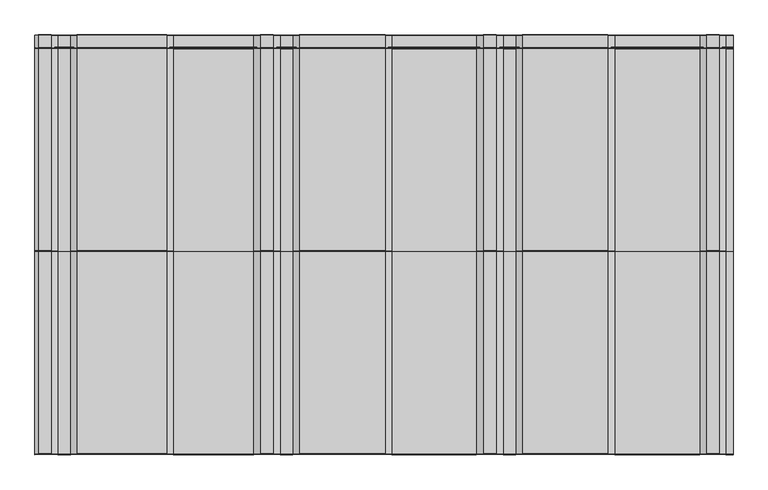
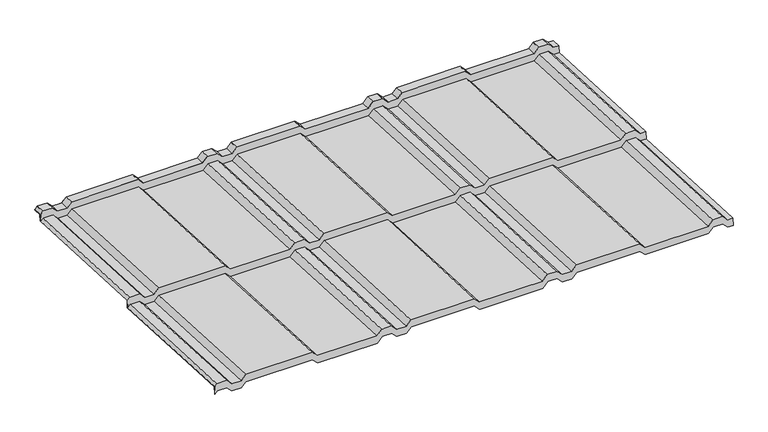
"""IFC4 building model written with IfcOpenShell, lengths in millimetres: proxy geometry, AQUAPLAST - Blachodachówka Alice na wymiar : Blachodachówka Alice."""

import ifcopenshell
import ifcopenshell.guid

model = None  # the IFC model being written
_history = None  # IfcOwnerHistory: only IFC2X3 demands one
_inside = {}  # id of a spatial element -> (the spatial element, [elements in it])
_under = {}  # id of a project, library or spatial element -> (it, [spatial elements below it])
_declared = {}  # id of a project -> (the project, [libraries it declares])
_typed = {}  # id of a type object -> (the type object, [elements of that type])
_made_of = {}  # id of a material, layer set ... -> (it, [elements and type objects made of it])


def new_model(schema):
    """Start an empty IFC model of exactly this schema.

    Asked for "IFC4X3", IfcOpenShell would pick the latest addendum, in which some entities
    have other attributes; the version numbers below select the first issue.
    IFC2X3 requires an IfcOwnerHistory on every rooted entity: one is made here for all.
    """
    global model, _history
    if schema == "IFC4X3":
        model = ifcopenshell.file(schema_version=(4, 3, 0, 0))
    else:
        model = ifcopenshell.file(schema=schema)
    _inside.clear()
    _under.clear()
    _declared.clear()
    _typed.clear()
    _made_of.clear()
    _history = None
    if model.schema == "IFC2X3":
        org = make("IfcOrganization", Name="unknown")
        user = make(
            "IfcPersonAndOrganization",
            ThePerson=make("IfcPerson", FamilyName="unknown"),
            TheOrganization=org,
        )
        app = make(
            "IfcApplication",
            ApplicationDeveloper=org,
            Version="unknown",
            ApplicationFullName="unknown",
            ApplicationIdentifier="unknown",
        )
        _history = make(
            "IfcOwnerHistory",
            OwningUser=user,
            OwningApplication=app,
            ChangeAction="ADDED",
            CreationDate=0,
        )
    return model


def make(cls, **values):
    """One entity of the class cls with the attributes given. An attribute that is None is left unset."""
    return model.create_entity(
        cls, **{name: value for name, value in values.items() if value is not None}
    )


def rooted(cls, **values):
    """An entity with a GlobalId (a new one), such as an element, a storey or a relation."""
    return make(cls, GlobalId=ifcopenshell.guid.new(), OwnerHistory=_history, **values)


def si_unit(unit_type, name, prefix=None):
    """IfcSIUnit, for example si_unit("LENGTHUNIT", "METRE", prefix="MILLI")."""
    return make("IfcSIUnit", UnitType=unit_type, Prefix=prefix, Name=name)


def assignment(units):
    """IfcUnitAssignment: the units of a project."""
    return None if units is None else make("IfcUnitAssignment", Units=units)


def point(xyz):
    """IfcCartesianPoint."""
    return None if xyz is None else make("IfcCartesianPoint", Coordinates=xyz)


def direction(xyz):
    """IfcDirection."""
    return None if xyz is None else make("IfcDirection", DirectionRatios=xyz)


def frame(location, z_axis=None, x_axis=None):
    """IfcAxis2Placement3D, a coordinate frame: its origin and axes. An axis left out is left unset."""
    return make(
        "IfcAxis2Placement3D",
        Location=point(location),
        Axis=direction(z_axis),
        RefDirection=direction(x_axis),
    )


def origin():
    """The frame at (0, 0, 0) with its axes left unset."""
    return frame((0.0, 0.0, 0.0))


def place(relative_to, where):
    """IfcLocalPlacement: puts the frame where relative to a parent placement (None: the world)."""
    return make(
        "IfcLocalPlacement", PlacementRelTo=relative_to, RelativePlacement=where
    )


def context(
    kind, dimensions, precision=None, world=None, true_north=None, identifier=None
):
    """IfcGeometricRepresentationContext, for example the 3D "Model" context."""
    return make(
        "IfcGeometricRepresentationContext",
        ContextIdentifier=identifier,
        ContextType=kind,
        CoordinateSpaceDimension=dimensions,
        Precision=precision,
        WorldCoordinateSystem=world,
        TrueNorth=true_north,
    )


def project(units=None, contexts=None):
    """IfcProject with its units and contexts."""
    return rooted(
        "IfcProject",
        Name="project",
        RepresentationContexts=contexts,
        UnitsInContext=assignment(units),
    )


def spatial(cls, under=None, at=None, **own):
    """A site, building, storey or space (cls), placed at a placement, below another one or the project."""
    s = rooted(cls, ObjectPlacement=at, **own)
    if under is not None:
        _under.setdefault(under.id(), (under, []))[1].append(s)
    return s


def faces_of(points, faces, orient=None, outer=None):
    """IfcFace entities. A face is a list of loops; a loop is a list of indices into points, from 0.

    orient and outer hold one flag for each loop. By default every Orientation is true, the
    first loop of a face is its IfcFaceOuterBound and the others are IfcFaceBound.
    """
    made = []
    for i, loops in enumerate(faces):
        bounds = []
        for j, loop in enumerate(loops):
            is_outer = j == 0 if outer is None else outer[i][j]
            bounds.append(
                make(
                    "IfcFaceOuterBound" if is_outer else "IfcFaceBound",
                    Bound=make("IfcPolyLoop", Polygon=[points[k] for k in loop]),
                    Orientation=True if orient is None else orient[i][j],
                )
            )
        made.append(make("IfcFace", Bounds=bounds))
    return made


def faceted_brep(points, faces, orient=None, outer=None, voids=None):
    """IfcFacetedBrep: a solid bounded by flat faces; with voids (closed shells), ...WithVoids."""
    shared = [point(p) for p in points]
    hull = make("IfcClosedShell", CfsFaces=faces_of(shared, faces, orient, outer))
    if voids is None:
        return make("IfcFacetedBrep", Outer=hull)
    return make(
        "IfcFacetedBrepWithVoids",
        Outer=hull,
        Voids=[
            make(cls, CfsFaces=faces_of(shared, fs, o, b)) for cls, fs, o, b in voids
        ],
    )


def shape(context_of_items, identifier, shape_type, items):
    """IfcShapeRepresentation: the items that make up one representation, for example the "Body"."""
    return make(
        "IfcShapeRepresentation",
        ContextOfItems=context_of_items,
        RepresentationIdentifier=identifier,
        RepresentationType=shape_type,
        Items=items,
    )


def source(mapping_origin, context_of_items, identifier, shape_type, items):
    """IfcRepresentationMap: a shape defined once, which mapped items show again and again."""
    return make(
        "IfcRepresentationMap",
        MappingOrigin=mapping_origin,
        MappedRepresentation=shape(context_of_items, identifier, shape_type, items),
    )


def transform(
    local_origin,
    x_axis=None,
    y_axis=None,
    z_axis=None,
    scale=None,
    scale2=None,
    scale3=None,
    uniform=True,
):
    """IfcCartesianTransformationOperator3D, or its non-uniform kind. x_axis, y_axis, z_axis: its Axis1, 2, 3."""
    if uniform:
        return make(
            "IfcCartesianTransformationOperator3D",
            Axis1=direction(x_axis),
            Axis2=direction(y_axis),
            LocalOrigin=point(local_origin),
            Scale=scale,
            Axis3=direction(z_axis),
        )
    return make(
        "IfcCartesianTransformationOperator3DnonUniform",
        Axis1=direction(x_axis),
        Axis2=direction(y_axis),
        LocalOrigin=point(local_origin),
        Scale=scale,
        Axis3=direction(z_axis),
        Scale2=scale2,
        Scale3=scale3,
    )


def mapped(mapping_source, mapping_target):
    """IfcMappedItem: shows the shape of a source again, moved by a transform."""
    return make(
        "IfcMappedItem", MappingSource=mapping_source, MappingTarget=mapping_target
    )


def made_of(thing, what):
    """Note that an element or type object is made of a material, layer set ...; save() writes the relation."""
    if what is not None:
        _made_of.setdefault(what.id(), (what, []))[1].append(thing)
    return thing


def element(
    cls,
    number,
    at=None,
    inside=None,
    cuts=None,
    type_object=None,
    material=None,
    context=None,
    identifier="Body",
    shape_type=None,
    held_by="IfcProductDefinitionShape",
    body=None,
    shapes=None,
    **own,
):
    """One element of the class cls, such as IfcWall. Its Tag is "e" and its number.

    at: its placement. inside: the storey or other place that contains it. cuts: it is an
    opening in that element (IfcRelVoidsElement). A single representation is given by context,
    identifier, shape_type and body (its items); several are given by shapes. held_by: the class
    of the entity that holds the representations. save() writes the other relations.
    """
    e = rooted(cls, Tag="e%d" % number, ObjectPlacement=at, **own)
    if body is not None:
        shapes = [shape(context, identifier, shape_type, body)]
    if shapes is not None:
        e.Representation = make(held_by, Representations=shapes)
    if inside is not None:
        _inside.setdefault(inside.id(), (inside, []))[1].append(e)
    if cuts is not None:
        rooted(
            "IfcRelVoidsElement", RelatingBuildingElement=cuts, RelatedOpeningElement=e
        )
    if type_object is not None:
        _typed.setdefault(type_object.id(), (type_object, []))[1].append(e)
    return made_of(e, material)


def aggregate(whole, parts):
    """IfcRelAggregates: a whole, such as a stair, and the parts it consists of."""
    return rooted("IfcRelAggregates", RelatingObject=whole, RelatedObjects=parts)


def save(model, path):
    """Write the relations noted so far, then the file.

    IfcRelAggregates (storeys below a building ...), IfcRelContainedInSpatialStructure (elements
    in a storey), IfcRelDefinesByType, IfcRelAssociatesMaterial and IfcRelDeclares: one each for
    every whole, place, type object, material and project.
    """
    for whole, parts in _under.values():
        aggregate(whole, parts)
    for where, things in _inside.values():
        rooted(
            "IfcRelContainedInSpatialStructure",
            RelatedElements=things,
            RelatingStructure=where,
        )
    for kind, things in _typed.values():
        rooted("IfcRelDefinesByType", RelatedObjects=things, RelatingType=kind)
    for what, things in _made_of.values():
        rooted("IfcRelAssociatesMaterial", RelatedObjects=things, RelatingMaterial=what)
    for by, libraries in _declared.values():
        rooted("IfcRelDeclares", RelatingContext=by, RelatedDefinitions=libraries)
    model.write(path)


def specialty_equipment_00c5cd35(model_context):
    return source(origin(), model_context, "Body", "Brep", [
        faceted_brep([(-566.0477972, 699.8197377, 29.0407544), (-571.7598776, 699.5357252, 23.3357391), (-571.7598776, 698.7215377, 6.9809929), (-566.0477972, 699.0055502, 12.6860082), (-543.5017928, 699.0055502, 12.6860082), (-532.0017928, 698.4337544, 1.2002323), (-510.6231132, 698.4337544, 1.2002323), (-499.6231132, 698.9806895, 12.1866267), (-345.1055852, 698.9806895, 12.1866267), (-333.6055852, 698.4088937, 0.7008507), (-195.9354926, 698.4088937, 0.7008507), (-183.9354926, 699.0055502, 12.6860082), (-161.7088996, 699.0055502, 12.6860082), (-149.7088996, 698.4088937, 0.7008507), (-128.1231132, 698.4088937, 0.7008507), (-116.6231132, 698.9806895, 12.1866267), (30.5086777, 698.9806895, 12.1866267), (42.0086777, 698.4088937, 0.7008507), (187.5101579, 698.4088937, 0.7008507), (199.5101579, 699.0055502, 12.6860082), (221.7367509, 699.0055502, 12.6860082), (233.7367509, 698.4088937, 0.7008507), (255.3225373, 698.4088937, 0.7008507), (266.8225373, 698.9806895, 12.1866267), (413.9543281, 698.9806895, 12.1866267), (425.4543281, 698.4088937, 0.7008507), (571.6593096, 698.4088937, 0.7008507), (583.1593096, 698.9806895, 12.1866267), (605.2911004, 698.9806895, 12.1866267), (616.7911004, 698.4088937, 0.7008507), (629.2401224, 698.4088937, 0.7008507), (629.2401224, 699.2230812, 17.0555969), (616.7911004, 699.2230812, 17.0555969), (605.2911004, 699.794877, 28.5413729), (583.1593096, 699.794877, 28.5413729), (571.6593096, 699.2230812, 17.0555969), (425.4543281, 699.2230812, 17.0555969), (413.9543281, 699.794877, 28.5413729), (266.8225373, 699.794877, 28.5413729), (255.3225373, 699.2230812, 17.0555969), (233.7367509, 699.2230812, 17.0555969), (221.7367509, 699.8197377, 29.0407544), (199.5101579, 699.8197377, 29.0407544), (187.5101579, 699.2230812, 17.0555969), (42.0086777, 699.2230812, 17.0555969), (30.5086777, 699.794877, 28.5413729), (-116.6231132, 699.794877, 28.5413729), (-128.1231132, 699.2230812, 17.0555969), (-149.7088996, 699.2230812, 17.0555969), (-161.7088996, 699.8197377, 29.0407544), (-183.9354926, 699.8197377, 29.0407544), (-195.9354926, 699.2230812, 17.0555969), (-333.6055852, 699.2230812, 17.0555969), (-345.1055852, 699.794877, 28.5413729), (-499.6231132, 699.794877, 28.5413729), (-510.6231132, 699.2479419, 17.5549785), (-532.0017928, 699.2479419, 17.5549785), (-543.5017928, 699.8197377, 29.0407544), (-510.4160064, 720.1971069, 16.0114481), (-532.2088996, 720.1971069, 16.0114481), (-543.7088996, 720.7689027, 27.497224), (-565.8406904, 720.7689027, 27.497224), (-571.7598776, 720.4745926, 21.5853581), (-571.7598776, 720.5097509, 22.2915903), (-566.0477972, 720.7937634, 27.9966056), (-543.5017928, 720.7937634, 27.9966056), (-532.0017928, 720.2219676, 16.5108296), (-510.6231132, 720.2219676, 16.5108296), (-499.6231132, 720.7689027, 27.497224), (-345.1055852, 720.7689027, 27.497224), (-333.6055852, 720.1971069, 16.0114481), (-195.9354926, 720.1971069, 16.0114481), (-183.9354926, 720.7937634, 27.9966056), (-161.7088996, 720.7937634, 27.9966056), (-149.7088996, 720.1971069, 16.0114481), (-128.1231132, 720.1971069, 16.0114481), (-116.6231132, 720.7689027, 27.497224), (30.5086777, 720.7689027, 27.497224), (42.0086777, 720.1971069, 16.0114481), (187.5101579, 720.1971069, 16.0114481), (199.5101579, 720.7937634, 27.9966056), (221.7367509, 720.7937634, 27.9966056), (233.7367509, 720.1971069, 16.0114481), (255.3225373, 720.1971069, 16.0114481), (266.8225373, 720.7689027, 27.497224), (413.9543281, 720.7689027, 27.497224), (425.4543281, 720.1971069, 16.0114481), (571.6593096, 720.1971069, 16.0114481), (583.1593096, 720.7689027, 27.497224), (605.2911004, 720.7689027, 27.497224), (616.7911004, 720.1971069, 16.0114481), (629.2401224, 720.1971069, 16.0114481), (629.2401224, 720.1722462, 15.5120665), (616.5839936, 720.1722462, 15.5120665), (605.0839936, 720.744042, 26.9978425), (583.3664164, 720.744042, 26.9978425), (571.8664164, 720.1722462, 15.5120665), (425.2472214, 720.1722462, 15.5120665), (413.7472214, 720.744042, 26.9978425), (267.0296441, 720.744042, 26.9978425), (255.5296441, 720.1722462, 15.5120665), (233.5296441, 720.1722462, 15.5120665), (221.5296441, 720.7689027, 27.497224), (199.7172647, 720.7689027, 27.497224), (187.7172647, 720.1722462, 15.5120665), (41.8015709, 720.1722462, 15.5120665), (30.3015709, 720.744042, 26.9978425), (-116.4160064, 720.744042, 26.9978425), (-127.9160064, 720.1722462, 15.5120665), (-149.9160064, 720.1722462, 15.5120665), (-161.9160064, 720.7689027, 27.497224), (-183.7283858, 720.7689027, 27.497224), (-195.7283858, 720.1722462, 15.5120665), (-333.8126919, 720.1722462, 15.5120665), (-345.3126919, 720.744042, 26.9978425), (-499.4160064, 720.744042, 26.9978425), (-510.4160064, 700.2218443, 17.0058755), (-532.2088996, 700.2218443, 17.0058755), (-543.7088996, 700.7936401, 28.4916515), (-565.8406904, 700.7936401, 28.4916515), (-571.7598776, 700.49933, 22.5797856), (-566.0477972, 700.8185008, 28.9910331), (-543.5017928, 700.8185008, 28.9910331), (-532.0017928, 700.246705, 17.5052571), (-510.6231132, 700.246705, 17.5052571), (-499.6231132, 700.7936401, 28.4916515), (-345.1055852, 700.7936401, 28.4916515), (-333.6055852, 700.2218443, 17.0058755), (-195.9354926, 700.2218443, 17.0058755), (-183.9354926, 700.8185008, 28.9910331), (-161.7088996, 700.8185008, 28.9910331), (-149.7088996, 700.2218443, 17.0058755), (-128.1231132, 700.2218443, 17.0058755), (-116.6231132, 700.7936401, 28.4916515), (30.5086777, 700.7936401, 28.4916515), (42.0086777, 700.2218443, 17.0058755), (187.5101579, 700.2218443, 17.0058755), (199.5101579, 700.8185008, 28.9910331), (221.7367509, 700.8185008, 28.9910331), (233.7367509, 700.2218443, 17.0058755), (255.3225373, 700.2218443, 17.0058755), (266.8225373, 700.7936401, 28.4916515), (413.9543281, 700.7936401, 28.4916515), (425.4543281, 700.2218443, 17.0058755), (571.6593096, 700.2218443, 17.0058755), (583.1593096, 700.7936401, 28.4916515), (605.2911004, 700.7936401, 28.4916515), (616.7911004, 700.2218443, 17.0058755), (629.2401224, 700.1969837, 16.506494), (616.5839936, 700.1969837, 16.506494), (605.0839936, 700.7687795, 27.9922699), (583.3664164, 700.7687795, 27.9922699), (571.8664164, 700.1969837, 16.506494), (425.2472214, 700.1969837, 16.506494), (413.7472214, 700.7687795, 27.9922699), (267.0296441, 700.7687795, 27.9922699), (255.5296441, 700.1969837, 16.506494), (233.5296441, 700.1969837, 16.506494), (221.5296441, 700.7936401, 28.4916515), (199.7172647, 700.7936401, 28.4916515), (187.7172647, 700.1969837, 16.506494), (41.8015709, 700.1969837, 16.506494), (30.3015709, 700.7687795, 27.9922699), (-116.4160064, 700.7687795, 27.9922699), (-127.9160064, 700.1969837, 16.506494), (-149.9160064, 700.1969837, 16.506494), (-161.9160064, 700.7936401, 28.4916515), (-183.7283858, 700.7936401, 28.4916515), (-195.7283858, 700.1969837, 16.506494), (-333.8126919, 700.1969837, 16.506494), (-345.3126919, 700.7687795, 27.9922699), (-499.4160064, 700.7687795, 27.9922699), (-566.0477972, 0.0, 29.9628938), (-571.7598776, -0.2840125, 24.2578785), (-571.7598776, -1.1495178, 6.8723021), (-565.8406904, -0.8552076, 12.784168), (-543.7088996, -0.8552076, 12.784168), (-532.2088996, -1.4270034, 1.2983921), (-510.4160064, -1.4270034, 1.2983921), (-499.4160064, -0.8800683, 12.2847865), (-345.3126919, -0.8800683, 12.2847865), (-333.8126919, -1.4518641, 0.7990105), (-195.7283858, -1.4518641, 0.7990105), (-183.7283858, -0.8552076, 12.784168), (-161.9160064, -0.8552076, 12.784168), (-149.9160064, -1.4518641, 0.7990105), (-127.9160064, -1.4518641, 0.7990105), (-116.4160064, -0.8800683, 12.2847865), (30.3015709, -0.8800683, 12.2847865), (41.8015709, -1.4518641, 0.7990105), (187.7172647, -1.4518641, 0.7990105), (199.7172647, -0.8552076, 12.784168), (221.5296441, -0.8552076, 12.784168), (233.5296441, -1.4518641, 0.7990105), (255.5296441, -1.4518641, 0.7990105), (267.0296441, -0.8800683, 12.2847865), (413.7472214, -0.8800683, 12.2847865), (425.2472214, -1.4518641, 0.7990105), (571.8664164, -1.4518641, 0.7990105), (583.3664164, -0.8800683, 12.2847865), (605.0839936, -0.8800683, 12.2847865), (616.5839936, -1.4518641, 0.7990105), (629.2401224, -1.4518641, 0.7990105), (629.2401224, -0.5966565, 17.9777363), (616.7911004, -0.5966565, 17.9777363), (605.2911004, -0.0248607, 29.4635123), (583.1593096, -0.0248607, 29.4635123), (571.6593096, -0.5966565, 17.9777363), (425.4543281, -0.5966565, 17.9777363), (413.9543281, -0.0248607, 29.4635123), (266.8225373, -0.0248607, 29.4635123), (255.3225373, -0.5966565, 17.9777363), (233.7367509, -0.5966565, 17.9777363), (221.7367509, 0.0, 29.9628938), (199.5101579, 0.0, 29.9628938), (187.5101579, -0.5966565, 17.9777363), (42.0086777, -0.5966565, 17.9777363), (30.5086777, -0.0248607, 29.4635123), (-116.6231132, -0.0248607, 29.4635123), (-128.1231132, -0.5966565, 17.9777363), (-149.7088996, -0.5966565, 17.9777363), (-161.7088996, 0.0, 29.9628938), (-183.9354926, 0.0, 29.9628938), (-195.9354926, -0.5966565, 17.9777363), (-333.6055852, -0.5966565, 17.9777363), (-345.1055852, -0.0248607, 29.4635123), (-499.6231132, -0.0248607, 29.4635123), (-510.6231132, -0.5717958, 18.4771179), (-532.0017928, -0.5717958, 18.4771179), (-543.5017928, 0.0, 29.9628938), (-510.4160064, 348.9704382, 0.5752554), (-532.2088996, 348.9704382, 0.5752554), (-543.7088996, 349.542234, 12.0610314), (-565.8406904, 349.542234, 12.0610314), (-571.7598776, 349.2479238, 6.1491655), (-571.7598776, 350.1180479, 23.6275202), (-565.8406904, 350.412358, 29.5393861), (-543.7088996, 350.412358, 29.5393861), (-532.2088996, 349.8405622, 18.0536102), (-510.4160064, 349.8405622, 18.0536102), (-499.4160064, 350.3874973, 29.0400046), (-345.3126919, 350.3874973, 29.0400046), (-333.8126919, 349.8157015, 17.5542286), (-195.7283858, 349.8157015, 17.5542286), (-183.7283858, 350.412358, 29.5393861), (-161.9160064, 350.412358, 29.5393861), (-149.9160064, 349.8157015, 17.5542286), (-127.9160064, 349.8157015, 17.5542286), (-116.4160064, 350.3874973, 29.0400046), (30.3015709, 350.3874973, 29.0400046), (41.8015709, 349.8157015, 17.5542286), (187.7172647, 349.8157015, 17.5542286), (199.7172647, 350.412358, 29.5393861), (221.5296441, 350.412358, 29.5393861), (233.5296441, 349.8157015, 17.5542286), (255.5296441, 349.8157015, 17.5542286), (267.0296441, 350.3874973, 29.0400046), (413.7472214, 350.3874973, 29.0400046), (425.2472214, 349.8157015, 17.5542286), (571.8664164, 349.8157015, 17.5542286), (583.3664164, 350.3874973, 29.0400046), (605.0839936, 350.3874973, 29.0400046), (616.5839936, 349.8157015, 17.5542286), (629.2401224, 349.8157015, 17.5542286), (629.2401224, 348.9455775, 0.0758739), (616.5839936, 348.9455775, 0.0758739), (605.0839936, 349.5173733, 11.5616498), (583.3664164, 349.5173733, 11.5616498), (571.8664164, 348.9455775, 0.0758739), (425.2472214, 348.9455775, 0.0758739), (413.7472214, 349.5173733, 11.5616498), (267.0296441, 349.5173733, 11.5616498), (255.5296441, 348.9455775, 0.0758739), (233.5296441, 348.9455775, 0.0758739), (221.5296441, 349.542234, 12.0610314), (199.7172647, 349.542234, 12.0610314), (187.7172647, 348.9455775, 0.0758739), (41.8015709, 348.9455775, 0.0758739), (30.3015709, 349.5173733, 11.5616498), (-116.4160064, 349.5173733, 11.5616498), (-127.9160064, 348.9455775, 0.0758739), (-149.9160064, 348.9455775, 0.0758739), (-161.9160064, 349.542234, 12.0610314), (-183.7283858, 349.542234, 12.0610314), (-195.7283858, 348.9455775, 0.0758739), (-333.8126919, 348.9455775, 0.0758739), (-345.3126919, 349.5173733, 11.5616498), (-499.4160064, 349.5173733, 11.5616498), (-510.6231132, 347.9965357, 1.1243584), (-532.0017928, 347.9965357, 1.1243584), (-499.6231132, 348.5434708, 12.1107528), (-345.1055852, 348.5434708, 12.1107528), (-333.6055852, 347.971675, 0.6249768), (-195.9354926, 347.971675, 0.6249768), (-183.9354926, 348.5683315, 12.6101343), (-161.7088996, 348.5683315, 12.6101343), (-149.7088996, 347.971675, 0.6249768), (-128.1231132, 347.971675, 0.6249768), (-116.6231132, 348.5434708, 12.1107528), (30.5086777, 348.5434708, 12.1107528), (42.0086777, 347.971675, 0.6249768), (187.5101579, 347.971675, 0.6249768), (199.5101579, 348.5683315, 12.6101343), (221.7367509, 348.5683315, 12.6101343), (233.7367509, 347.971675, 0.6249768), (255.3225373, 347.971675, 0.6249768), (266.8225373, 348.5434708, 12.1107528), (413.9543281, 348.5434708, 12.1107528), (425.4543281, 347.971675, 0.6249768), (571.6593096, 347.971675, 0.6249768), (583.1593096, 348.5434708, 12.1107528), (605.2911004, 348.5434708, 12.1107528), (616.7911004, 347.971675, 0.6249768), (629.2401224, 347.971675, 0.6249768), (629.2401224, 0.377246, 17.4286334), (616.5839936, 0.377246, 17.4286334), (616.5839936, 347.9468143, 0.1255953), (605.0839936, 0.9490418, 28.9144093), (605.0839936, 348.5186101, 11.6113712), (583.3664164, 0.9490418, 28.9144093), (583.3664164, 348.5186101, 11.6113712), (571.8664164, 0.377246, 17.4286334), (571.8664164, 347.9468143, 0.1255953), (425.2472214, 0.377246, 17.4286334), (425.2472214, 347.9468143, 0.1255953), (413.7472214, 0.9490418, 28.9144093), (413.7472214, 348.5186101, 11.6113712), (267.0296441, 0.9490418, 28.9144093), (267.0296441, 348.5186101, 11.6113712), (255.5296441, 0.377246, 17.4286334), (255.5296441, 347.9468143, 0.1255953), (233.5296441, 0.377246, 17.4286334), (233.5296441, 347.9468143, 0.1255953), (221.5296441, 0.9739024, 29.4137909), (221.5296441, 348.5434708, 12.1107528), (199.7172647, 0.9739024, 29.4137909), (199.7172647, 348.5434708, 12.1107528), (187.7172647, 0.377246, 17.4286334), (187.7172647, 347.9468143, 0.1255953), (41.8015709, 0.377246, 17.4286334), (41.8015709, 347.9468143, 0.1255953), (30.3015709, 0.9490418, 28.9144093), (30.3015709, 348.5186101, 11.6113712), (-116.4160064, 0.9490418, 28.9144093), (-116.4160064, 348.5186101, 11.6113712), (-127.9160064, 0.377246, 17.4286334), (-127.9160064, 347.9468143, 0.1255953), (-149.9160064, 0.377246, 17.4286334), (-149.9160064, 347.9468143, 0.1255953), (-161.9160064, 0.9739024, 29.4137909), (-161.9160064, 348.5434708, 12.1107528), (-183.7283858, 0.9739024, 29.4137909), (-183.7283858, 348.5434708, 12.1107528), (-195.7283858, 0.377246, 17.4286334), (-195.7283858, 347.9468143, 0.1255953), (-333.8126919, 0.377246, 17.4286334), (-333.8126919, 347.9468143, 0.1255953), (-345.3126919, 0.9490418, 28.9144093), (-345.3126919, 348.5186101, 11.6113712), (-499.4160064, 0.9490418, 28.9144093), (-499.4160064, 348.5186101, 11.6113712), (-510.4160064, 0.4021066, 17.9280149), (-510.4160064, 347.971675, 0.6249768), (-532.2088996, 0.4021066, 17.9280149), (-532.2088996, 347.971675, 0.6249768), (-543.7088996, 0.9739024, 29.4137909), (-543.7088996, 348.5434708, 12.1107528), (-565.8406904, 0.9739024, 29.4137909), (-565.8406904, 348.5434708, 12.1107528), (-571.7598776, 0.6795923, 23.501925), (-566.0477972, 348.5683315, 12.6101343), (-571.7598776, 348.284319, 6.905119), (-543.5017928, 348.5683315, 12.6101343), (-566.0477972, 349.4384556, 30.0884891), (-571.7598776, 349.1544431, 24.3834738), (629.2401224, 348.8417991, 18.1033315), (616.7911004, 348.8417991, 18.1033315), (605.2911004, 349.4135949, 29.5891075), (583.1593096, 349.4135949, 29.5891075), (571.6593096, 348.8417991, 18.1033315), (425.4543281, 348.8417991, 18.1033315), (413.9543281, 349.4135949, 29.5891075), (266.8225373, 349.4135949, 29.5891075), (255.3225373, 348.8417991, 18.1033315), (233.7367509, 348.8417991, 18.1033315), (221.7367509, 349.4384556, 30.0884891), (199.5101579, 349.4384556, 30.0884891), (187.5101579, 348.8417991, 18.1033315), (42.0086777, 348.8417991, 18.1033315), (30.5086777, 349.4135949, 29.5891075), (-116.6231132, 349.4135949, 29.5891075), (-128.1231132, 348.8417991, 18.1033315), (-149.7088996, 348.8417991, 18.1033315), (-161.7088996, 349.4384556, 30.0884891), (-183.9354926, 349.4384556, 30.0884891), (-195.9354926, 348.8417991, 18.1033315), (-333.6055852, 348.8417991, 18.1033315), (-345.1055852, 349.4135949, 29.5891075), (-499.6231132, 349.4135949, 29.5891075), (-510.6231132, 348.8666598, 18.6027131), (-532.0017928, 348.8666598, 18.6027131), (-543.5017928, 349.4384556, 30.0884891), (629.2401224, 699.3827962, 0.1517478), (616.5839936, 699.3827962, 0.1517478), (605.0839936, 699.954592, 11.6375237), (583.3664164, 699.954592, 11.6375237), (571.8664164, 699.3827962, 0.1517478), (425.2472214, 699.3827962, 0.1517478), (413.7472214, 699.954592, 11.6375237), (267.0296441, 699.954592, 11.6375237), (255.5296441, 699.3827962, 0.1517478), (233.5296441, 699.3827962, 0.1517478), (221.5296441, 699.9794527, 12.1369053), (199.7172647, 699.9794527, 12.1369053), (187.7172647, 699.3827962, 0.1517478), (41.8015709, 699.3827962, 0.1517478), (30.3015709, 699.954592, 11.6375237), (-116.4160064, 699.954592, 11.6375237), (-127.9160064, 699.3827962, 0.1517478), (-149.9160064, 699.3827962, 0.1517478), (-161.9160064, 699.9794527, 12.1369053), (-183.7283858, 699.9794527, 12.1369053), (-195.7283858, 699.3827962, 0.1517478), (-333.8126919, 699.3827962, 0.1517478), (-345.3126919, 699.954592, 11.6375237), (-499.4160064, 699.954592, 11.6375237), (-510.4160064, 699.4076569, 0.6511293), (-532.2088996, 699.4076569, 0.6511293), (-543.7088996, 699.9794527, 12.1369053), (-565.8406904, 699.9794527, 12.1369053), (-571.7598776, 699.6851425, 6.2250394), (-571.7598776, -0.1507546, 6.8225807), (629.2401224, -0.453101, 0.7492891), (616.5839936, -0.453101, 0.7492891), (605.0839936, 0.1186948, 12.2350651), (583.3664164, 0.1186948, 12.2350651), (571.8664164, -0.453101, 0.7492891), (425.2472214, -0.453101, 0.7492891), (413.7472214, 0.1186948, 12.2350651), (267.0296441, 0.1186948, 12.2350651), (255.5296441, -0.453101, 0.7492891), (233.5296441, -0.453101, 0.7492891), (221.5296441, 0.1435555, 12.7344467), (199.7172647, 0.1435555, 12.7344467), (187.7172647, -0.453101, 0.7492891), (41.8015709, -0.453101, 0.7492891), (30.3015709, 0.1186948, 12.2350651), (-116.4160064, 0.1186948, 12.2350651), (-127.9160064, -0.453101, 0.7492891), (-149.9160064, -0.453101, 0.7492891), (-161.9160064, 0.1435555, 12.7344467), (-183.7283858, 0.1435555, 12.7344467), (-195.7283858, -0.453101, 0.7492891), (-333.8126919, -0.453101, 0.7492891), (-345.3126919, 0.1186948, 12.2350651), (-499.4160064, 0.1186948, 12.2350651), (-510.4160064, -0.4282403, 1.2486707), (-532.2088996, -0.4282403, 1.2486707), (-543.7088996, 0.1435555, 12.7344467), (-565.8406904, 0.1435555, 12.7344467)], [[[0, 1, 2, 3, 4, 5, 6, 7, 8, 9, 10, 11, 12, 13, 14, 15, 16, 17, 18, 19, 20, 21, 22, 23, 24, 25, 26, 27, 28, 29, 30, 31, 32, 33, 34, 35, 36, 37, 38, 39, 40, 41, 42, 43, 44, 45, 46, 47, 48, 49, 50, 51, 52, 53, 54, 55, 56, 57]], [[58, 59, 60, 61, 62, 63, 64, 65, 66, 67, 68, 69, 70, 71, 72, 73, 74, 75, 76, 77, 78, 79, 80, 81, 82, 83, 84, 85, 86, 87, 88, 89, 90, 91, 92, 93, 94, 95, 96, 97, 98, 99, 100, 101, 102, 103, 104, 105, 106, 107, 108, 109, 110, 111, 112, 113, 114, 115]], [[58, 116, 117, 59]], [[59, 117, 118, 60]], [[60, 118, 119, 61]], [[119, 120, 62, 61]], [[64, 63, 1, 0, 121]], [[57, 122, 65, 64, 121, 0]], [[56, 123, 66, 65, 122, 57]], [[55, 124, 67, 66, 123, 56]], [[54, 125, 68, 67, 124, 55]], [[53, 126, 69, 68, 125, 54]], [[52, 127, 70, 69, 126, 53]], [[51, 128, 71, 70, 127, 52]], [[50, 129, 72, 71, 128, 51]], [[49, 130, 73, 72, 129, 50]], [[48, 131, 74, 73, 130, 49]], [[47, 132, 75, 74, 131, 48]], [[46, 133, 76, 75, 132, 47]], [[45, 134, 77, 76, 133, 46]], [[44, 135, 78, 77, 134, 45]], [[43, 136, 79, 78, 135, 44]], [[42, 137, 80, 79, 136, 43]], [[41, 138, 81, 80, 137, 42]], [[40, 139, 82, 81, 138, 41]], [[39, 140, 83, 82, 139, 40]], [[38, 141, 84, 83, 140, 39]], [[37, 142, 85, 84, 141, 38]], [[36, 143, 86, 85, 142, 37]], [[35, 144, 87, 86, 143, 36]], [[34, 145, 88, 87, 144, 35]], [[33, 146, 89, 88, 145, 34]], [[32, 147, 90, 89, 146, 33]], [[147, 32, 31, 91, 90]], [[92, 148, 149, 93]], [[93, 149, 150, 94]], [[94, 150, 151, 95]], [[95, 151, 152, 96]], [[96, 152, 153, 97]], [[97, 153, 154, 98]], [[98, 154, 155, 99]], [[99, 155, 156, 100]], [[100, 156, 157, 101]], [[101, 157, 158, 102]], [[102, 158, 159, 103]], [[103, 159, 160, 104]], [[104, 160, 161, 105]], [[105, 161, 162, 106]], [[106, 162, 163, 107]], [[107, 163, 164, 108]], [[108, 164, 165, 109]], [[109, 165, 166, 110]], [[110, 166, 167, 111]], [[111, 167, 168, 112]], [[112, 168, 169, 113]], [[113, 169, 170, 114]], [[114, 170, 171, 115]], [[115, 171, 116, 58]], [[172, 173, 174, 175, 176, 177, 178, 179, 180, 181, 182, 183, 184, 185, 186, 187, 188, 189, 190, 191, 192, 193, 194, 195, 196, 197, 198, 199, 200, 201, 202, 203, 204, 205, 206, 207, 208, 209, 210, 211, 212, 213, 214, 215, 216, 217, 218, 219, 220, 221, 222, 223, 224, 225, 226, 227, 228, 229]], [[230, 231, 232, 233, 234, 235, 236, 237, 238, 239, 240, 241, 242, 243, 244, 245, 246, 247, 248, 249, 250, 251, 252, 253, 254, 255, 256, 257, 258, 259, 260, 261, 262, 263, 264, 265, 266, 267, 268, 269, 270, 271, 272, 273, 274, 275, 276, 277, 278, 279, 280, 281, 282, 283, 284, 285, 286, 287]], [[227, 288, 289, 228]], [[226, 290, 288, 227]], [[225, 291, 290, 226]], [[224, 292, 291, 225]], [[223, 293, 292, 224]], [[222, 294, 293, 223]], [[221, 295, 294, 222]], [[220, 296, 295, 221]], [[219, 297, 296, 220]], [[218, 298, 297, 219]], [[217, 299, 298, 218]], [[216, 300, 299, 217]], [[215, 301, 300, 216]], [[214, 302, 301, 215]], [[213, 303, 302, 214]], [[212, 304, 303, 213]], [[211, 305, 304, 212]], [[210, 306, 305, 211]], [[209, 307, 306, 210]], [[208, 308, 307, 209]], [[207, 309, 308, 208]], [[206, 310, 309, 207]], [[205, 311, 310, 206]], [[204, 312, 311, 205]], [[204, 203, 313, 312]], [[264, 314, 315, 316, 265]], [[265, 316, 315, 317, 318, 266]], [[266, 318, 317, 319, 320, 267]], [[267, 320, 319, 321, 322, 268]], [[268, 322, 321, 323, 324, 269]], [[269, 324, 323, 325, 326, 270]], [[270, 326, 325, 327, 328, 271]], [[271, 328, 327, 329, 330, 272]], [[272, 330, 329, 331, 332, 273]], [[273, 332, 331, 333, 334, 274]], [[274, 334, 333, 335, 336, 275]], [[275, 336, 335, 337, 338, 276]], [[276, 338, 337, 339, 340, 277]], [[277, 340, 339, 341, 342, 278]], [[278, 342, 341, 343, 344, 279]], [[279, 344, 343, 345, 346, 280]], [[280, 346, 345, 347, 348, 281]], [[281, 348, 347, 349, 350, 282]], [[282, 350, 349, 351, 352, 283]], [[283, 352, 351, 353, 354, 284]], [[284, 354, 353, 355, 356, 285]], [[285, 356, 355, 357, 358, 286]], [[286, 358, 357, 359, 360, 287]], [[287, 360, 359, 361, 362, 230]], [[230, 362, 361, 363, 364, 231]], [[231, 364, 363, 365, 366, 232]], [[232, 366, 365, 367, 368, 233]], [[368, 367, 369, 234, 233]], [[370, 371, 173, 172]], [[229, 372, 370, 172]], [[228, 289, 372, 229]], [[373, 374, 371, 370, 372, 289, 288, 290, 291, 292, 293, 294, 295, 296, 297, 298, 299, 300, 301, 302, 303, 304, 305, 306, 307, 308, 309, 310, 311, 312, 313, 375, 376, 377, 378, 379, 380, 381, 382, 383, 384, 385, 386, 387, 388, 389, 390, 391, 392, 393, 394, 395, 396, 397, 398, 399, 400, 401]], [[399, 6, 5, 400]], [[398, 7, 6, 399]], [[397, 8, 7, 398]], [[396, 9, 8, 397]], [[395, 10, 9, 396]], [[394, 11, 10, 395]], [[393, 12, 11, 394]], [[392, 13, 12, 393]], [[391, 14, 13, 392]], [[390, 15, 14, 391]], [[389, 16, 15, 390]], [[388, 17, 16, 389]], [[387, 18, 17, 388]], [[386, 19, 18, 387]], [[385, 20, 19, 386]], [[384, 21, 20, 385]], [[383, 22, 21, 384]], [[382, 23, 22, 383]], [[381, 24, 23, 382]], [[380, 25, 24, 381]], [[379, 26, 25, 380]], [[378, 27, 26, 379]], [[377, 28, 27, 378]], [[376, 29, 28, 377]], [[376, 375, 30, 29]], [[402, 263, 262, 403]], [[403, 262, 261, 404]], [[404, 261, 260, 405]], [[405, 260, 259, 406]], [[406, 259, 258, 407]], [[407, 258, 257, 408]], [[408, 257, 256, 409]], [[409, 256, 255, 410]], [[410, 255, 254, 411]], [[411, 254, 253, 412]], [[412, 253, 252, 413]], [[413, 252, 251, 414]], [[414, 251, 250, 415]], [[415, 250, 249, 416]], [[416, 249, 248, 417]], [[417, 248, 247, 418]], [[418, 247, 246, 419]], [[419, 246, 245, 420]], [[420, 245, 244, 421]], [[421, 244, 243, 422]], [[422, 243, 242, 423]], [[423, 242, 241, 424]], [[424, 241, 240, 425]], [[425, 240, 239, 426]], [[426, 239, 238, 427]], [[427, 238, 237, 428]], [[428, 237, 236, 429]], [[429, 236, 235, 430]], [[3, 2, 374, 373]], [[401, 4, 3, 373]], [[400, 5, 4, 401]], [[430, 120, 119, 118, 117, 116, 171, 170, 169, 168, 167, 166, 165, 164, 163, 162, 161, 160, 159, 158, 157, 156, 155, 154, 153, 152, 151, 150, 149, 148, 402, 403, 404, 405, 406, 407, 408, 409, 410, 411, 412, 413, 414, 415, 416, 417, 418, 419, 420, 421, 422, 423, 424, 425, 426, 427, 428, 429]], [[174, 173, 371, 374, 2, 1, 63, 62, 120, 430, 235, 234, 369, 431]], [[148, 92, 91, 31, 30, 375, 313, 203, 202, 432, 314, 264, 263, 402]], [[369, 367, 365, 363, 361, 359, 357, 355, 353, 351, 349, 347, 345, 343, 341, 339, 337, 335, 333, 331, 329, 327, 325, 323, 321, 319, 317, 315, 314, 432, 433, 434, 435, 436, 437, 438, 439, 440, 441, 442, 443, 444, 445, 446, 447, 448, 449, 450, 451, 452, 453, 454, 455, 456, 457, 458, 459, 431]], [[201, 433, 432, 202]], [[200, 434, 433, 201]], [[199, 435, 434, 200]], [[198, 436, 435, 199]], [[197, 437, 436, 198]], [[196, 438, 437, 197]], [[195, 439, 438, 196]], [[194, 440, 439, 195]], [[193, 441, 440, 194]], [[192, 442, 441, 193]], [[191, 443, 442, 192]], [[190, 444, 443, 191]], [[189, 445, 444, 190]], [[188, 446, 445, 189]], [[187, 447, 446, 188]], [[186, 448, 447, 187]], [[185, 449, 448, 186]], [[184, 450, 449, 185]], [[183, 451, 450, 184]], [[182, 452, 451, 183]], [[181, 453, 452, 182]], [[180, 454, 453, 181]], [[179, 455, 454, 180]], [[178, 456, 455, 179]], [[177, 457, 456, 178]], [[176, 458, 457, 177]], [[175, 459, 458, 176]], [[174, 431, 459, 175]]]),
        faceted_brep([(-566.0477972, 698.4, 29.9628938), (-571.7598776, 698.1159875, 24.2578785), (-571.7598776, 697.2504822, 6.8723021), (-565.8406904, 697.5447924, 12.784168), (-543.7088996, 697.5447924, 12.784168), (-532.2088996, 696.9729966, 1.2983921), (-510.4160064, 696.9729966, 1.2983921), (-499.4160064, 697.5199317, 12.2847865), (-345.3126919, 697.5199317, 12.2847865), (-333.8126919, 696.9481359, 0.7990105), (-195.7283858, 696.9481359, 0.7990105), (-183.7283858, 697.5447924, 12.784168), (-161.9160064, 697.5447924, 12.784168), (-149.9160064, 696.9481359, 0.7990105), (-127.9160064, 696.9481359, 0.7990105), (-116.4160064, 697.5199317, 12.2847865), (30.3015709, 697.5199317, 12.2847865), (41.8015709, 696.9481359, 0.7990105), (187.7172647, 696.9481359, 0.7990105), (199.7172647, 697.5447924, 12.784168), (221.5296441, 697.5447924, 12.784168), (233.5296441, 696.9481359, 0.7990105), (255.5296441, 696.9481359, 0.7990105), (267.0296441, 697.5199317, 12.2847865), (413.7472214, 697.5199317, 12.2847865), (425.2472214, 696.9481359, 0.7990105), (571.8664164, 696.9481359, 0.7990105), (583.3664164, 697.5199317, 12.2847865), (605.0839936, 697.5199317, 12.2847865), (616.5839936, 696.9481359, 0.7990105), (629.2401224, 696.9481359, 0.7990105), (629.2401224, 697.8033435, 17.9777363), (616.7911004, 697.8033435, 17.9777363), (605.2911004, 698.3751393, 29.4635123), (583.1593096, 698.3751393, 29.4635123), (571.6593096, 697.8033435, 17.9777363), (425.4543281, 697.8033435, 17.9777363), (413.9543281, 698.3751393, 29.4635123), (266.8225373, 698.3751393, 29.4635123), (255.3225373, 697.8033435, 17.9777363), (233.7367509, 697.8033435, 17.9777363), (221.7367509, 698.4, 29.9628938), (199.5101579, 698.4, 29.9628938), (187.5101579, 697.8033435, 17.9777363), (42.0086777, 697.8033435, 17.9777363), (30.5086777, 698.3751393, 29.4635123), (-116.6231132, 698.3751393, 29.4635123), (-128.1231132, 697.8033435, 17.9777363), (-149.7088996, 697.8033435, 17.9777363), (-161.7088996, 698.4, 29.9628938), (-183.9354926, 698.4, 29.9628938), (-195.9354926, 697.8033435, 17.9777363), (-333.6055852, 697.8033435, 17.9777363), (-345.1055852, 698.3751393, 29.4635123), (-499.6231132, 698.3751393, 29.4635123), (-510.6231132, 697.8282042, 18.4771179), (-532.0017928, 697.8282042, 18.4771179), (-543.5017928, 698.4, 29.9628938), (-510.6231132, 719.7510549, 17.3857337), (-532.0017928, 719.7510549, 17.3857337), (-499.6231132, 720.29799, 28.3721281), (-345.1055852, 720.29799, 28.3721281), (-333.6055852, 719.7261942, 16.8863521), (-195.9354926, 719.7261942, 16.8863521), (-183.9354926, 720.3228506, 28.8715097), (-161.7088996, 720.3228506, 28.8715097), (-149.7088996, 719.7261942, 16.8863521), (-128.1231132, 719.7261942, 16.8863521), (-116.6231132, 720.29799, 28.3721281), (30.5086777, 720.29799, 28.3721281), (42.0086777, 719.7261942, 16.8863521), (187.5101579, 719.7261942, 16.8863521), (199.5101579, 720.3228506, 28.8715097), (221.7367509, 720.3228506, 28.8715097), (233.7367509, 719.7261942, 16.8863521), (255.3225373, 719.7261942, 16.8863521), (266.8225373, 720.29799, 28.3721281), (413.9543281, 720.29799, 28.3721281), (425.4543281, 719.7261942, 16.8863521), (571.6593096, 719.7261942, 16.8863521), (583.1593096, 720.29799, 28.3721281), (605.2911004, 720.29799, 28.3721281), (616.7911004, 719.7261942, 16.8863521), (629.2401224, 719.7261942, 16.8863521), (629.2401224, 719.7013335, 16.3869706), (629.2401224, 698.777246, 17.4286334), (616.5839936, 698.777246, 17.4286334), (616.5839936, 719.7013335, 16.3869706), (605.0839936, 699.3490418, 28.9144093), (605.0839936, 720.2731293, 27.8727465), (583.3664164, 699.3490418, 28.9144093), (583.3664164, 720.2731293, 27.8727465), (571.8664164, 698.777246, 17.4286334), (571.8664164, 719.7013335, 16.3869706), (425.2472214, 698.777246, 17.4286334), (425.2472214, 719.7013335, 16.3869706), (413.7472214, 699.3490418, 28.9144093), (413.7472214, 720.2731293, 27.8727465), (267.0296441, 699.3490418, 28.9144093), (267.0296441, 720.2731293, 27.8727465), (255.5296441, 698.777246, 17.4286334), (255.5296441, 719.7013335, 16.3869706), (233.5296441, 698.777246, 17.4286334), (233.5296441, 719.7013335, 16.3869706), (221.5296441, 699.3739024, 29.4137909), (221.5296441, 720.29799, 28.3721281), (199.7172647, 699.3739024, 29.4137909), (199.7172647, 720.29799, 28.3721281), (187.7172647, 698.777246, 17.4286334), (187.7172647, 719.7013335, 16.3869706), (41.8015709, 698.777246, 17.4286334), (41.8015709, 719.7013335, 16.3869706), (30.3015709, 699.3490418, 28.9144093), (30.3015709, 720.2731293, 27.8727465), (-116.4160064, 699.3490418, 28.9144093), (-116.4160064, 720.2731293, 27.8727465), (-127.9160064, 698.777246, 17.4286334), (-127.9160064, 719.7013335, 16.3869706), (-149.9160064, 698.777246, 17.4286334), (-149.9160064, 719.7013335, 16.3869706), (-161.9160064, 699.3739024, 29.4137909), (-161.9160064, 720.29799, 28.3721281), (-183.7283858, 699.3739024, 29.4137909), (-183.7283858, 720.29799, 28.3721281), (-195.7283858, 698.777246, 17.4286334), (-195.7283858, 719.7013335, 16.3869706), (-333.8126919, 698.777246, 17.4286334), (-333.8126919, 719.7013335, 16.3869706), (-345.3126919, 699.3490418, 28.9144093), (-345.3126919, 720.2731293, 27.8727465), (-499.4160064, 699.3490418, 28.9144093), (-499.4160064, 720.2731293, 27.8727465), (-510.4160064, 698.8021066, 17.9280149), (-510.4160064, 719.7261942, 16.8863521), (-532.2088996, 698.8021066, 17.9280149), (-532.2088996, 719.7261942, 16.8863521), (-543.7088996, 699.3739024, 29.4137909), (-543.7088996, 720.29799, 28.3721281), (-565.8406904, 699.3739024, 29.4137909), (-565.8406904, 720.29799, 28.3721281), (-571.7598776, 699.0795923, 23.501925), (-571.7598776, 720.0036798, 22.4602622), (-566.0477972, 720.3228506, 28.8715097), (-571.7598776, 720.0388382, 23.1664944), (-543.5017928, 720.3228506, 28.8715097), (629.2401224, 697.946899, 0.7492891), (616.5839936, 697.946899, 0.7492891), (605.0839936, 698.5186948, 12.2350651), (583.3664164, 698.5186948, 12.2350651), (571.8664164, 697.946899, 0.7492891), (425.2472214, 697.946899, 0.7492891), (413.7472214, 698.5186948, 12.2350651), (267.0296441, 698.5186948, 12.2350651), (255.5296441, 697.946899, 0.7492891), (233.5296441, 697.946899, 0.7492891), (221.5296441, 698.5435555, 12.7344467), (199.7172647, 698.5435555, 12.7344467), (187.7172647, 697.946899, 0.7492891), (41.8015709, 697.946899, 0.7492891), (30.3015709, 698.5186948, 12.2350651), (-116.4160064, 698.5186948, 12.2350651), (-127.9160064, 697.946899, 0.7492891), (-149.9160064, 697.946899, 0.7492891), (-161.9160064, 698.5435555, 12.7344467), (-183.7283858, 698.5435555, 12.7344467), (-195.7283858, 697.946899, 0.7492891), (-333.8126919, 697.946899, 0.7492891), (-345.3126919, 698.5186948, 12.2350651), (-499.4160064, 698.5186948, 12.2350651), (-510.4160064, 697.9717597, 1.2486707), (-532.2088996, 697.9717597, 1.2486707), (-543.7088996, 698.5435555, 12.7344467), (-565.8406904, 698.5435555, 12.7344467), (-571.7598776, 698.2492454, 6.8225807)], [[[0, 1, 2, 3, 4, 5, 6, 7, 8, 9, 10, 11, 12, 13, 14, 15, 16, 17, 18, 19, 20, 21, 22, 23, 24, 25, 26, 27, 28, 29, 30, 31, 32, 33, 34, 35, 36, 37, 38, 39, 40, 41, 42, 43, 44, 45, 46, 47, 48, 49, 50, 51, 52, 53, 54, 55, 56, 57]], [[55, 58, 59, 56]], [[54, 60, 58, 55]], [[53, 61, 60, 54]], [[52, 62, 61, 53]], [[51, 63, 62, 52]], [[50, 64, 63, 51]], [[49, 65, 64, 50]], [[48, 66, 65, 49]], [[47, 67, 66, 48]], [[46, 68, 67, 47]], [[45, 69, 68, 46]], [[44, 70, 69, 45]], [[43, 71, 70, 44]], [[42, 72, 71, 43]], [[41, 73, 72, 42]], [[40, 74, 73, 41]], [[39, 75, 74, 40]], [[38, 76, 75, 39]], [[37, 77, 76, 38]], [[36, 78, 77, 37]], [[35, 79, 78, 36]], [[34, 80, 79, 35]], [[33, 81, 80, 34]], [[32, 82, 81, 33]], [[32, 31, 83, 82]], [[84, 85, 86, 87]], [[87, 86, 88, 89]], [[89, 88, 90, 91]], [[91, 90, 92, 93]], [[93, 92, 94, 95]], [[95, 94, 96, 97]], [[97, 96, 98, 99]], [[99, 98, 100, 101]], [[101, 100, 102, 103]], [[103, 102, 104, 105]], [[105, 104, 106, 107]], [[107, 106, 108, 109]], [[109, 108, 110, 111]], [[111, 110, 112, 113]], [[113, 112, 114, 115]], [[115, 114, 116, 117]], [[117, 116, 118, 119]], [[119, 118, 120, 121]], [[121, 120, 122, 123]], [[123, 122, 124, 125]], [[125, 124, 126, 127]], [[127, 126, 128, 129]], [[129, 128, 130, 131]], [[131, 130, 132, 133]], [[133, 132, 134, 135]], [[135, 134, 136, 137]], [[137, 136, 138, 139]], [[139, 138, 140, 141]], [[142, 143, 1, 0]], [[57, 144, 142, 0]], [[56, 59, 144, 57]], [[140, 138, 136, 134, 132, 130, 128, 126, 124, 122, 120, 118, 116, 114, 112, 110, 108, 106, 104, 102, 100, 98, 96, 94, 92, 90, 88, 86, 85, 145, 146, 147, 148, 149, 150, 151, 152, 153, 154, 155, 156, 157, 158, 159, 160, 161, 162, 163, 164, 165, 166, 167, 168, 169, 170, 171, 172, 173]], [[29, 146, 145, 30]], [[28, 147, 146, 29]], [[27, 148, 147, 28]], [[26, 149, 148, 27]], [[25, 150, 149, 26]], [[24, 151, 150, 25]], [[23, 152, 151, 24]], [[22, 153, 152, 23]], [[21, 154, 153, 22]], [[20, 155, 154, 21]], [[19, 156, 155, 20]], [[18, 157, 156, 19]], [[17, 158, 157, 18]], [[16, 159, 158, 17]], [[15, 160, 159, 16]], [[14, 161, 160, 15]], [[13, 162, 161, 14]], [[12, 163, 162, 13]], [[11, 164, 163, 12]], [[10, 165, 164, 11]], [[9, 166, 165, 10]], [[8, 167, 166, 9]], [[7, 168, 167, 8]], [[6, 169, 168, 7]], [[5, 170, 169, 6]], [[4, 171, 170, 5]], [[3, 172, 171, 4]], [[2, 173, 172, 3]], [[58, 60, 61, 62, 63, 64, 65, 66, 67, 68, 69, 70, 71, 72, 73, 74, 75, 76, 77, 78, 79, 80, 81, 82, 83, 84, 87, 89, 91, 93, 95, 97, 99, 101, 103, 105, 107, 109, 111, 113, 115, 117, 119, 121, 123, 125, 127, 129, 131, 133, 135, 137, 139, 141, 143, 142, 144, 59]], [[2, 1, 143, 141, 140, 173]], [[85, 84, 83, 31, 30, 145]]]),
    ])


if __name__ == "__main__":
    model = new_model("IFC4")
    model_context = context("Model", 3, world=origin())
    ifc_project = project(units=[si_unit("LENGTHUNIT", "METRE", prefix="MILLI")], contexts=[model_context])
    site = spatial("IfcSite", under=ifc_project)
    building = spatial("IfcBuilding", under=site)
    placement = place(None, origin())
    specialty_equipment_shape = specialty_equipment_00c5cd35(model_context)
    element("IfcBuildingElementProxy", 1, Name="AQUAPLAST - Blachodachówka Alice na wymiar : Blachodachówka Alice", ObjectType="AQUAPLAST - Blachodachówka Alice na wymiar : Blachodachówka Alice", at=placement, inside=building, context=model_context, shape_type="MappedRepresentation", body=[
        mapped(specialty_equipment_shape, transform((0.0, 0.0, 0.0), x_axis=(1.0, 0.0, 0.0), y_axis=(0.0, 1.0, 0.0), z_axis=(0.0, 0.0, 1.0))),
    ])
    save(model, "model.ifc")
